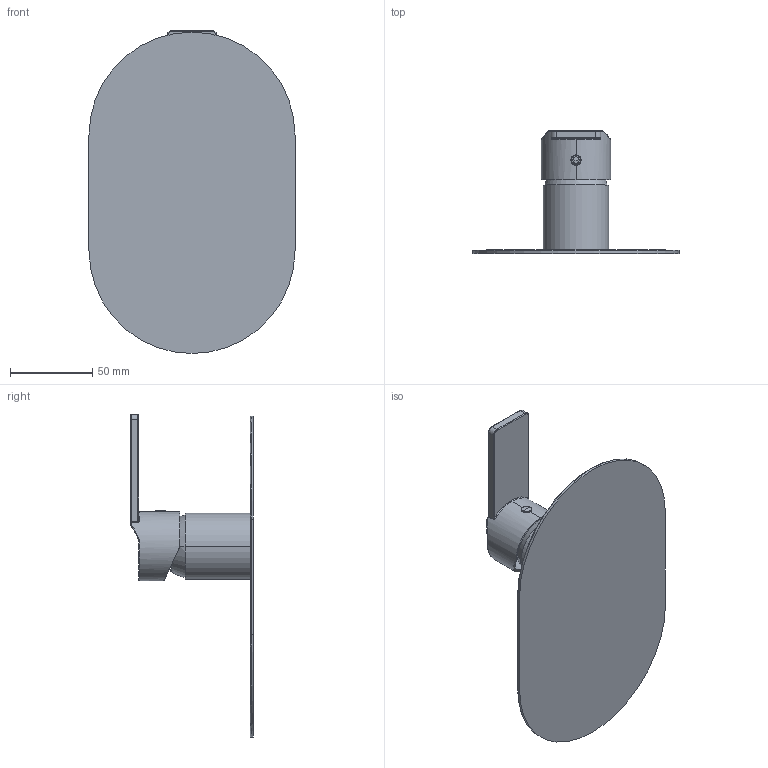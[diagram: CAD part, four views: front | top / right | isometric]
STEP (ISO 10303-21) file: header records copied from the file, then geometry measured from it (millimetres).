
FILE_DESCRIPTION((''),'2;1');
FILE_NAME('47511_SW0001','2024-12-12T15:40:20',('carloff'),(''),'CREO PARAMETRIC BY PTC INC, 2022014','CREO PARAMETRIC BY PTC INC, 2022014','');
FILE_SCHEMA(('CONFIG_CONTROL_DESIGN'));
Length unit declared in the file: millimetre
Products named in the file (1): 47511_SW0001
Bounding box: 125 x 74.6 x 196 mm (x, y, z)
Volume: 119699.3 mm3; surface area: 63714.3 mm2
Topology: 2 solids, 3 shells, 215 faces, 562 edges, 348 vertices
Faces by surface type: plane 78, cylinder 67, torus 28, bspline 27, cone 13, sphere 2
Entity records: 13088 total; most frequent: CARTESIAN_POINT 8025, ORIENTED_EDGE 1116, DIRECTION 966, EDGE_CURVE 558, AXIS2_PLACEMENT_3D 356, VERTEX_POINT 348, VECTOR 254, LINE 254
